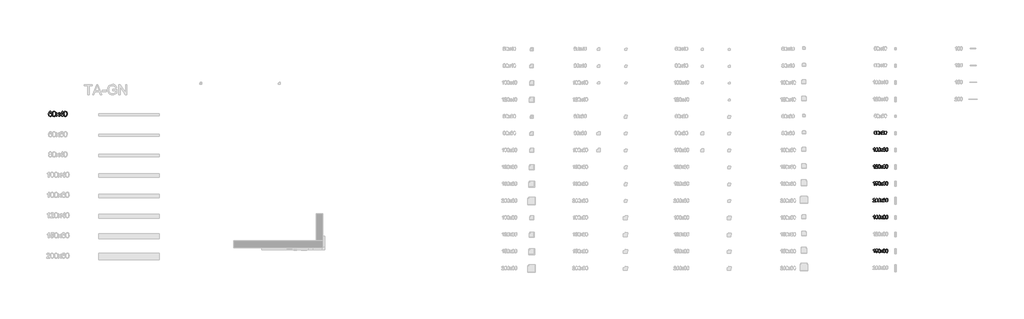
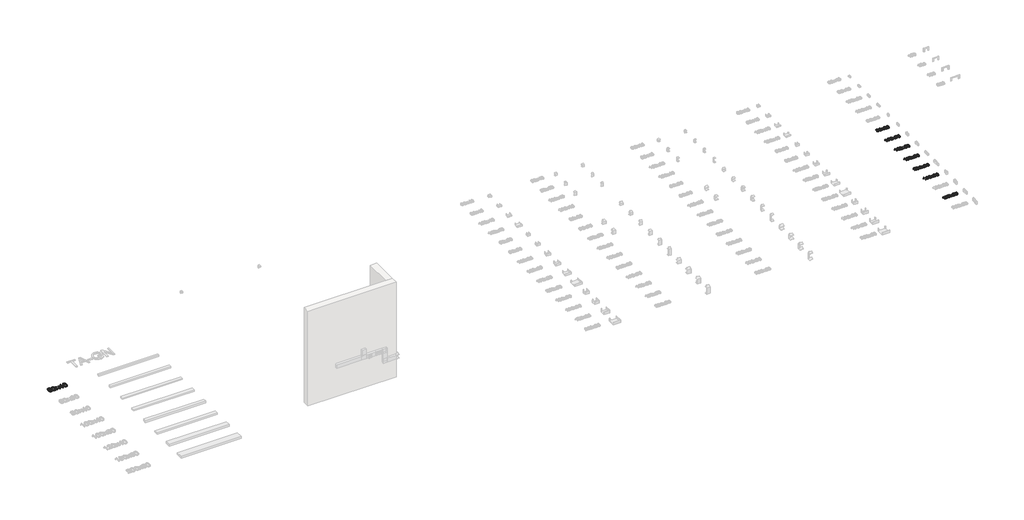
# One storey, part 18 of 28: 8 proxies.
"""IFC4 building model written with IfcOpenShell, lengths in millimetres."""

from ifc_helpers import new_model, si_unit, origin, origin_with_axes, place, context, project, spatial, polyline, outline, extrude, element, save

model = new_model("IFC4")

# Units and contexts
model_context = context("Model", 3, world=origin())
ifc_project = project(units=[si_unit("LENGTHUNIT", "METRE", prefix="MILLI")], contexts=[model_context])

# Site, building, storey
site = spatial("IfcSite", under=ifc_project)
building = spatial("IfcBuilding", under=site)
storey = spatial("IfcBuildingStorey", under=building, Name="Этаж 01", Elevation=0.0)

# Proxies
placement = place(None, origin())
element("IfcBuildingElementProxy", 1, Name="150 мм Arial", ObjectType="150 мм Arial", at=placement, inside=storey, context=model_context, shape_type="SweptSolid", body=[
    extrude(outline(polyline([(-418.304527, 190.0462691), (-437.1400852, 187.6918243), (-444.2769959, 203.4003855), (-452.8210552, 209.2773004), (-463.1493422, 211.236272), (-480.1454904, 206.6745353), (-493.0029661, 189.5496284), (-496.9071138, 175.5195288), (-498.3556492, 155.9803964), (-481.7457771, 171.0083759), (-461.1627794, 175.9196005), (-443.7619611, 172.5626773), (-429.1570459, 162.4919077), (-419.2518231, 147.1052432), (-415.9500822, 127.8006355), (-417.5043837, 114.3131619), (-422.167288, 101.8097726), (-429.552519, 91.2055741), (-439.2738007, 83.4156728), (-450.8896747, 78.6286084), (-463.9586826, 77.0329202), (-485.328028, 81.2635631), (-502.3471688, 93.955492), (-513.4801977, 116.3595055), (-517.1912073, 149.7264024), (-513.070929, 187.2411689), (-500.7100939, 212.891741), (-483.8335074, 225.7768079), (-461.9721198, 230.0718302), (-445.4450212, 227.4138828), (-432.2104664, 219.4400405), (-422.9398401, 206.7757028), (-418.304527, 190.0462691)]), holes=[polyline([(-498.3556492, 128.0949411), (-493.9962475, 111.7793746), (-482.4079647, 99.9335744), (-465.4302106, 95.8684784), (-453.0003977, 97.9746028), (-443.2285322, 104.292976), (-436.8963633, 114.2257899), (-434.7856404, 127.1752361), (-436.8687722, 139.6050491), (-443.1181676, 149.082609), (-453.05558, 155.083684), (-466.2027628, 157.0840423), (-478.6141816, 155.083684), (-488.9930524, 149.082609), (-496.015, 139.8349753), (-498.3556492, 128.0949411)])]), origin_with_axes(), (0.0, 0.0, 1.0), 20.0),
    extrude(outline(polyline([(-399.4689688, 153.515587), (-398.0848128, 177.6348503), (-393.9323448, 196.8704801), (-387.0529515, 211.5167821), (-377.4880196, 221.8680617), (-365.1685713, 228.0208881), (-350.0256287, 230.0718302), (-328.0262854, 225.2157879), (-312.832759, 211.2178779), (-304.0035911, 188.924229), (-300.5822885, 153.515587), (-301.952649, 129.5342794), (-306.0637303, 110.3446349), (-312.9017369, 95.6845374), (-322.4528732, 85.291871), (-334.7999126, 79.0976579), (-350.0256287, 77.0329202), (-369.5969508, 80.6197697), (-384.4593834, 91.380318), (-395.7165725, 116.8653432), (-399.4689688, 153.515587)]), holes=[polyline([(-380.6334107, 153.5523752), (-378.4261187, 123.924079), (-371.8042428, 106.7761795), (-361.9450053, 98.5954036), (-350.0256287, 95.8684784), (-338.1062521, 98.6046007), (-328.2470146, 106.8129677), (-321.6251387, 123.9700643), (-319.4178467, 153.5523752), (-321.5515623, 182.5138853), (-327.952709, 199.795142), (-337.7935524, 208.3759895), (-350.2463579, 211.236272), (-362.0369758, 208.7162804), (-371.5099372, 201.1563054), (-378.3525423, 182.7989938), (-380.6334107, 153.5523752)])]), origin_with_axes(), (0.0, 0.0, 1.0), 20.0),
    extrude(outline(polyline([(-291.1645095, 79.387365), (-250.9182192, 135.0111226), (-288.8100647, 190.0462691), (-266.1485338, 190.0462691), (-247.8647986, 163.5587655), (-239.3299363, 151.0507776), (-231.9355082, 161.2778971), (-211.1133873, 190.0462691), (-188.4518564, 190.0462691), (-228.2566883, 135.0111226), (-189.9233844, 79.387365), (-212.5849153, 79.387365), (-235.6511164, 112.8278383), (-239.8817593, 118.9346794), (-268.5029786, 79.387365), (-291.1645095, 79.387365)])), origin_with_axes(), (0.0, 0.0, 1.0), 20.0),
    extrude(outline(polyline([(-116.9355966, 79.387365), (-116.9355966, 114.7040365), (-185.2144949, 114.7040365), (-185.2144949, 133.5395947), (-112.226707, 227.7173854), (-98.1000384, 227.7173854), (-98.1000384, 133.5395947), (-79.2644802, 133.5395947), (-79.2644802, 114.7040365), (-98.1000384, 114.7040365), (-98.1000384, 79.387365), (-116.9355966, 79.387365)]), holes=[polyline([(-116.9355966, 133.5395947), (-116.9355966, 191.7385263), (-162.0379292, 133.5395947), (-116.9355966, 133.5395947)])]), origin_with_axes(), (0.0, 0.0, 1.0), 20.0),
    extrude(outline(polyline([(-62.7833669, 153.515587), (-61.3992109, 177.6348503), (-57.2467428, 196.8704801), (-50.3673495, 211.5167821), (-40.8024177, 221.8680617), (-28.4829693, 228.0208881), (-13.3400267, 230.0718302), (8.6593166, 225.2157879), (23.852843, 211.2178779), (32.6820109, 188.924229), (36.1033134, 153.515587), (34.732953, 129.5342794), (30.6218717, 110.3446349), (23.7838651, 95.6845374), (14.2327288, 85.291871), (1.8856894, 79.0976579), (-13.3400267, 77.0329202), (-32.9113489, 80.6197697), (-47.7737815, 91.380318), (-59.0309705, 116.8653432), (-62.7833669, 153.515587)]), holes=[polyline([(-43.9478087, 153.5523752), (-41.7405167, 123.924079), (-35.1186408, 106.7761795), (-25.2594034, 98.5954036), (-13.3400267, 95.8684784), (-1.4206501, 98.6046007), (8.4385874, 106.8129677), (15.0604633, 123.9700643), (17.2677553, 153.5523752), (15.1340397, 182.5138853), (8.732893, 199.795142), (-1.1079504, 208.3759895), (-13.5607559, 211.236272), (-25.3513739, 208.7162804), (-34.8243352, 201.1563054), (-41.6669403, 182.7989938), (-43.9478087, 153.5523752)])]), origin_with_axes(), (0.0, 0.0, 1.0), 20.0),
])
element("IfcBuildingElementProxy", 2, Name="100 мм Arial", ObjectType="100 мм Arial", at=placement, inside=storey, context=model_context, shape_type="SweptSolid", body=[
    extrude(outline(polyline([(23974.707867, -398.0058037), (23963.266737, -390.2067054), (23959.5511288, -378.0665996), (23961.5744798, -368.2502817), (23967.6445327, -360.1384837), (23977.0807059, -354.6938302), (23989.2024176, -352.8789457), (24001.3977058, -354.7367497), (24010.9565063, -360.310162), (24017.1369238, -368.5507186), (24019.197063, -378.4099561), (24015.5305057, -390.2434936), (24004.4082068, -398.0058037), (24017.7623232, -407.8527785), (24022.3363227, -424.1008999), (24020.067717, -436.1061157), (24013.2619001, -446.0266668), (24002.7527378, -452.6853309), (23989.3740959, -454.9048856), (23975.995454, -452.6761339), (23965.4862917, -445.9898786), (23958.6804748, -435.9742913), (23956.4118691, -423.7575434), (23961.1698096, -407.1292772), (23974.707867, -398.0058037)]), holes=[polyline([(23972.1081676, -378.4344816), (23976.5595397, -388.2937191), (23989.5212487, -392.1196918), (24002.2254403, -388.3182445), (24006.6400242, -378.9985673), (24002.0782875, -369.3477963), (23989.3740959, -365.4359844), (23976.6331161, -369.2619572), (23972.1081676, -378.4344816)]), polyline([(23968.9689079, -423.316085), (23971.0658353, -432.7706523), (23978.4847888, -439.8462493), (23989.4721978, -442.3478469), (23998.0193228, -441.0326687), (24004.4327322, -437.0871343), (24009.7792839, -423.7084925), (24004.261054, -410.0723332), (23997.7004917, -406.0256312), (23989.0552648, -404.6767306), (23980.6277015, -406.0072371), (23974.2786714, -409.9987568), (23968.9689079, -423.316085)])]), origin_with_axes(), (0.0, 0.0, 1.0), 20.0),
    extrude(outline(polyline([(24033.3237316, -403.9164411), (24037.0148143, -375.013179), (24047.9776977, -358.3481246), (24066.2859583, -352.8789457), (24080.9521872, -356.1163072), (24091.0812048, -365.4482472), (24096.9673167, -380.3106798), (24099.2481851, -403.9164411), (24095.5938906, -432.6970759), (24084.6677954, -449.3989185), (24076.4364357, -453.5283938), (24066.2859583, -454.9048856), (24053.2384103, -452.5136527), (24043.3301218, -445.3399538), (24035.8253291, -428.349937), (24033.3237316, -403.9164411)]), holes=[polyline([(24045.8807703, -403.8919156), (24047.3522983, -423.6441131), (24051.7668823, -435.0760461), (24058.3397073, -440.5298967), (24066.2859583, -442.3478469), (24074.2322094, -440.5237653), (24080.8050344, -435.0515206), (24085.2196184, -423.6134563), (24086.6911463, -403.8919156), (24085.2686693, -384.5842423), (24081.0012382, -373.0634045), (24074.4406759, -367.3428394), (24066.1388055, -365.4359844), (24058.2783936, -367.1159789), (24051.963086, -372.1559622), (24047.4013493, -384.3941699), (24045.8807703, -403.8919156)])]), origin_with_axes(), (0.0, 0.0, 1.0), 20.0),
    extrude(outline(polyline([(24105.5267045, -453.3352558), (24132.3575647, -416.2527507), (24107.0963343, -379.562653), (24122.2040216, -379.562653), (24134.3931784, -397.2209888), (24140.0830866, -405.5596474), (24145.0127053, -398.7415677), (24158.8941193, -379.562653), (24174.0018065, -379.562653), (24147.465252, -416.2527507), (24173.0207879, -453.3352558), (24157.9131006, -453.3352558), (24142.5356332, -431.0416069), (24139.7152046, -426.9703795), (24120.6343918, -453.3352558), (24105.5267045, -453.3352558)])), origin_with_axes(), (0.0, 0.0, 1.0), 20.0),
    extrude(outline(polyline([(24245.2237608, -379.562653), (24232.666722, -381.1322829), (24227.9087816, -370.6599088), (24215.3272173, -365.4359844), (24203.9964519, -368.4771422), (24195.4248014, -379.8937468), (24191.856346, -402.2732349), (24202.9295941, -392.2545819), (24216.6515925, -388.9804321), (24228.2521381, -391.2183809), (24237.9887482, -397.9322273), (24244.59223, -408.1900036), (24246.7933906, -421.0597421), (24242.6485868, -438.3869841), (24231.244245, -450.6497172), (24214.7876571, -454.9048856), (24200.5414268, -452.084457), (24189.1953329, -443.6231711), (24181.7733137, -428.6871621), (24179.2993073, -406.4425641), (24182.0461595, -381.4327198), (24190.2867162, -364.3323384), (24201.5377739, -355.7422938), (24216.1120323, -352.8789457), (24227.130098, -354.6509106), (24235.9531345, -359.9668054), (24242.133552, -368.4096972), (24245.2237608, -379.562653)]), holes=[polyline([(24191.856346, -420.8635384), (24194.7626138, -431.7405827), (24202.4881357, -439.6377828), (24213.8066384, -442.3478469), (24222.0931804, -440.9437639), (24228.6077574, -436.7315151), (24232.8292032, -430.1096392), (24234.2363519, -421.476675), (24232.8475973, -413.1901331), (24228.6813338, -406.8717598), (24222.0563922, -402.8710431), (24213.2916036, -401.5374709), (24198.0980772, -406.8717598), (24193.4167788, -413.0368489), (24191.856346, -420.8635384)])]), origin_with_axes(), (0.0, 0.0, 1.0), 20.0),
    extrude(outline(polyline([(24257.7807996, -403.9164411), (24261.4718823, -375.013179), (24272.4347657, -358.3481246), (24290.7430263, -352.8789457), (24305.4092552, -356.1163072), (24315.5382728, -365.4482472), (24321.4243847, -380.3106798), (24323.7052531, -403.9164411), (24320.0509586, -432.6970759), (24309.1248634, -449.3989185), (24300.8935037, -453.5283938), (24290.7430263, -454.9048856), (24277.6954782, -452.5136527), (24267.7871898, -445.3399538), (24260.2823971, -428.349937), (24257.7807996, -403.9164411)]), holes=[polyline([(24270.3378383, -403.8919156), (24271.8093663, -423.6441131), (24276.2239503, -435.0760461), (24282.7967752, -440.5298967), (24290.7430263, -442.3478469), (24298.6892774, -440.5237653), (24305.2621024, -435.0515206), (24309.6766864, -423.6134563), (24311.1482143, -403.8919156), (24309.7257373, -384.5842423), (24305.4583061, -373.0634045), (24298.8977439, -367.3428394), (24290.5958735, -365.4359844), (24282.7354616, -367.1159789), (24276.420154, -372.1559622), (24271.8584173, -384.3941699), (24270.3378383, -403.8919156)])]), origin_with_axes(), (0.0, 0.0, 1.0), 20.0),
])
element("IfcBuildingElementProxy", 3, Name="100 мм Arial", ObjectType="100 мм Arial", at=placement, inside=storey, context=model_context, shape_type="SweptSolid", body=[
    extrude(outline(polyline([(23965.0448333, -1453.3352558), (23952.4877945, -1453.3352558), (23952.4877945, -1375.0499672), (23940.5929433, -1383.5235158), (23927.373717, -1389.8633489), (23927.373717, -1377.9930232), (23945.7800795, -1366.2453248), (23956.9514294, -1352.8789457), (23965.0448333, -1352.8789457), (23965.0448333, -1453.3352558)])), origin_with_axes(), (0.0, 0.0, 1.0), 20.0),
    extrude(outline(polyline([(24059.222624, -1440.778217), (24059.222624, -1453.3352558), (23993.2981705, -1453.3352558), (23994.6470712, -1444.6777662), (24002.2744912, -1431.3481752), (24017.9953151, -1416.7923109), (24039.6758274, -1395.8720882), (24045.0959554, -1381.6473177), (24039.9823957, -1370.1326112), (24026.6282793, -1365.4359844), (24012.7100771, -1370.0222466), (24007.4248391, -1382.7019127), (23994.8678004, -1381.1322829), (23997.9120239, -1368.9860457), (24004.4940459, -1360.1139582), (24014.2705099, -1354.6876988), (24026.8980594, -1352.8789457), (24039.6175794, -1354.8900339), (24049.3756493, -1360.9232986), (24055.583658, -1369.9364075), (24057.6529942, -1380.8870282), (24055.4211768, -1392.7941421), (24048.0022232, -1405.1059262), (24030.0127936, -1422.3105409), (24015.5672939, -1434.389333), (24009.9019112, -1440.778217), (24059.222624, -1440.778217)])), origin_with_axes(), (0.0, 0.0, 1.0), 20.0),
    extrude(outline(polyline([(24071.7796628, -1403.9164411), (24075.4707455, -1375.013179), (24086.433629, -1358.3481246), (24104.7418896, -1352.8789457), (24119.4081185, -1356.1163072), (24129.5371361, -1365.4482472), (24135.423248, -1380.3106798), (24137.7041163, -1403.9164411), (24134.0498219, -1432.6970759), (24123.1237266, -1449.3989185), (24114.892367, -1453.5283938), (24104.7418896, -1454.9048856), (24091.6943415, -1452.5136527), (24081.7860531, -1445.3399538), (24074.2812604, -1428.349937), (24071.7796628, -1403.9164411)]), holes=[polyline([(24084.3367016, -1403.8919156), (24085.8082296, -1423.6441131), (24090.2228135, -1435.0760461), (24096.7956385, -1440.5298967), (24104.7418896, -1442.3478469), (24112.6881407, -1440.5237653), (24119.2609657, -1435.0515206), (24123.6755496, -1423.6134563), (24125.1470776, -1403.8919156), (24123.7246005, -1384.5842423), (24119.4571694, -1373.0634045), (24112.8966071, -1367.3428394), (24104.5947368, -1365.4359844), (24096.7343248, -1367.1159789), (24090.4190172, -1372.1559622), (24085.8572805, -1384.3941699), (24084.3367016, -1403.8919156)])]), origin_with_axes(), (0.0, 0.0, 1.0), 20.0),
    extrude(outline(polyline([(24143.9826357, -1453.3352558), (24170.8134959, -1416.2527507), (24145.5522656, -1379.562653), (24160.6599528, -1379.562653), (24172.8491096, -1397.2209888), (24178.5390178, -1405.5596474), (24183.4686365, -1398.7415677), (24197.3500505, -1379.562653), (24212.4577378, -1379.562653), (24185.9211832, -1416.2527507), (24211.4767191, -1453.3352558), (24196.3690318, -1453.3352558), (24180.9915644, -1431.0416069), (24178.1711358, -1426.9703795), (24159.090323, -1453.3352558), (24143.9826357, -1453.3352558)])), origin_with_axes(), (0.0, 0.0, 1.0), 20.0),
    extrude(outline(polyline([(24283.679692, -1379.562653), (24271.1226533, -1381.1322829), (24266.3647128, -1370.6599088), (24253.7831486, -1365.4359844), (24242.4523831, -1368.4771422), (24233.8807326, -1379.8937468), (24230.3122773, -1402.2732349), (24241.3855253, -1392.2545819), (24255.1075237, -1388.9804321), (24266.7080693, -1391.2183809), (24276.4446795, -1397.9322273), (24283.0481613, -1408.1900036), (24285.2493219, -1421.0597421), (24281.1045181, -1438.3869841), (24269.7001762, -1450.6497172), (24253.2435883, -1454.9048856), (24238.997358, -1452.084457), (24227.6512642, -1443.6231711), (24220.2292449, -1428.6871621), (24217.7552385, -1406.4425641), (24220.5020907, -1381.4327198), (24228.7426474, -1364.3323384), (24239.9937051, -1355.7422938), (24254.5679635, -1352.8789457), (24265.5860292, -1354.6509106), (24274.4090658, -1359.9668054), (24280.5894833, -1368.4096972), (24283.679692, -1379.562653)]), holes=[polyline([(24230.3122773, -1420.8635384), (24233.218545, -1431.7405827), (24240.9440669, -1439.6377828), (24252.2625696, -1442.3478469), (24260.5491116, -1440.9437639), (24267.0636886, -1436.7315151), (24271.2851345, -1430.1096392), (24272.6922831, -1421.476675), (24271.3035286, -1413.1901331), (24267.137265, -1406.8717598), (24260.5123234, -1402.8710431), (24251.7475348, -1401.5374709), (24236.5540084, -1406.8717598), (24231.8727101, -1413.0368489), (24230.3122773, -1420.8635384)])]), origin_with_axes(), (0.0, 0.0, 1.0), 20.0),
    extrude(outline(polyline([(24296.2367308, -1403.9164411), (24299.9278135, -1375.013179), (24310.8906969, -1358.3481246), (24329.1989576, -1352.8789457), (24343.8651864, -1356.1163072), (24353.994204, -1365.4482472), (24359.880316, -1380.3106798), (24362.1611843, -1403.9164411), (24358.5068898, -1432.6970759), (24347.5807946, -1449.3989185), (24339.349435, -1453.5283938), (24329.1989576, -1454.9048856), (24316.1514095, -1452.5136527), (24306.2431211, -1445.3399538), (24298.7383284, -1428.349937), (24296.2367308, -1403.9164411)]), holes=[polyline([(24308.7937696, -1403.8919156), (24310.2652975, -1423.6441131), (24314.6798815, -1435.0760461), (24321.2527065, -1440.5298967), (24329.1989576, -1442.3478469), (24337.1452087, -1440.5237653), (24343.7180336, -1435.0515206), (24348.1326176, -1423.6134563), (24349.6041456, -1403.8919156), (24348.1816685, -1384.5842423), (24343.9142374, -1373.0634045), (24337.3536751, -1367.3428394), (24329.0518048, -1365.4359844), (24321.1913928, -1367.1159789), (24314.8760852, -1372.1559622), (24310.3143485, -1384.3941699), (24308.7937696, -1403.8919156)])]), origin_with_axes(), (0.0, 0.0, 1.0), 20.0),
])
element("IfcBuildingElementProxy", 4, Name="100 мм Arial", ObjectType="100 мм Arial", at=placement, inside=storey, context=model_context, shape_type="SweptSolid", body=[
    extrude(outline(polyline([(23965.0448333, -1953.3352558), (23952.4877945, -1953.3352558), (23952.4877945, -1875.0499672), (23940.5929433, -1883.5235158), (23927.373717, -1889.8633489), (23927.373717, -1877.9930232), (23945.7800795, -1866.2453248), (23956.9514294, -1852.8789457), (23965.0448333, -1852.8789457), (23965.0448333, -1953.3352558)])), origin_with_axes(), (0.0, 0.0, 1.0), 20.0),
    extrude(outline(polyline([(23994.8678004, -1926.6515484), (24007.4248391, -1925.0819186), (24013.7524094, -1938.0191021), (24026.8735339, -1942.3478469), (24035.8743801, -1940.8425964), (24042.6188833, -1936.3268449), (24046.8311322, -1929.3217586), (24048.2352151, -1920.3485036), (24042.9745026, -1905.43702), (24036.3679551, -1901.3351358), (24027.0697377, -1899.967841), (24016.0455405, -1902.1506075), (24008.994469, -1907.8159903), (23996.4374302, -1906.2463604), (24007.4248391, -1854.4485755), (24056.0833643, -1854.4485755), (24056.0833643, -1867.0056143), (24017.5783822, -1867.0056143), (24012.2073051, -1894.6703403), (24021.1774944, -1889.2256868), (24030.5768793, -1887.4108023), (24042.3092493, -1889.6610138), (24052.0489251, -1896.4116484), (24058.6064217, -1906.7000815), (24060.7922539, -1919.5636886), (24058.8240852, -1932.1207274), (24052.9195792, -1942.8628817), (24041.6133392, -1951.8943847), (24026.824483, -1954.9048856), (24014.4912391, -1952.9704395), (24004.6657242, -1947.167101), (23997.930418, -1938.1693206), (23994.8678004, -1926.6515484)])), origin_with_axes(), (0.0, 0.0, 1.0), 20.0),
    extrude(outline(polyline([(24071.7796628, -1903.9164411), (24075.4707455, -1875.013179), (24086.433629, -1858.3481246), (24104.7418896, -1852.8789457), (24119.4081185, -1856.1163072), (24129.5371361, -1865.4482472), (24135.423248, -1880.3106798), (24137.7041163, -1903.9164411), (24134.0498219, -1932.6970759), (24123.1237266, -1949.3989185), (24114.892367, -1953.5283938), (24104.7418896, -1954.9048856), (24091.6943415, -1952.5136527), (24081.7860531, -1945.3399538), (24074.2812604, -1928.349937), (24071.7796628, -1903.9164411)]), holes=[polyline([(24084.3367016, -1903.8919156), (24085.8082296, -1923.6441131), (24090.2228135, -1935.0760461), (24096.7956385, -1940.5298967), (24104.7418896, -1942.3478469), (24112.6881407, -1940.5237653), (24119.2609657, -1935.0515206), (24123.6755496, -1923.6134563), (24125.1470776, -1903.8919156), (24123.7246005, -1884.5842423), (24119.4571694, -1873.0634045), (24112.8966071, -1867.3428394), (24104.5947368, -1865.4359844), (24096.7343248, -1867.1159789), (24090.4190172, -1872.1559622), (24085.8572805, -1884.3941699), (24084.3367016, -1903.8919156)])]), origin_with_axes(), (0.0, 0.0, 1.0), 20.0),
    extrude(outline(polyline([(24143.9826357, -1953.3352558), (24170.8134959, -1916.2527507), (24145.5522656, -1879.562653), (24160.6599528, -1879.562653), (24172.8491096, -1897.2209888), (24178.5390178, -1905.5596474), (24183.4686365, -1898.7415677), (24197.3500505, -1879.562653), (24212.4577378, -1879.562653), (24185.9211832, -1916.2527507), (24211.4767191, -1953.3352558), (24196.3690318, -1953.3352558), (24180.9915644, -1931.0416069), (24178.1711358, -1926.9703795), (24159.090323, -1953.3352558), (24143.9826357, -1953.3352558)])), origin_with_axes(), (0.0, 0.0, 1.0), 20.0),
    extrude(outline(polyline([(24283.679692, -1879.562653), (24271.1226533, -1881.1322829), (24266.3647128, -1870.6599088), (24253.7831486, -1865.4359844), (24242.4523831, -1868.4771422), (24233.8807326, -1879.8937468), (24230.3122773, -1902.2732349), (24241.3855253, -1892.2545819), (24255.1075237, -1888.9804321), (24266.7080693, -1891.2183809), (24276.4446795, -1897.9322273), (24283.0481613, -1908.1900036), (24285.2493219, -1921.0597421), (24281.1045181, -1938.3869841), (24269.7001762, -1950.6497172), (24253.2435883, -1954.9048856), (24238.997358, -1952.084457), (24227.6512642, -1943.6231711), (24220.2292449, -1928.6871621), (24217.7552385, -1906.4425641), (24220.5020907, -1881.4327198), (24228.7426474, -1864.3323384), (24239.9937051, -1855.7422938), (24254.5679635, -1852.8789457), (24265.5860292, -1854.6509106), (24274.4090658, -1859.9668054), (24280.5894833, -1868.4096972), (24283.679692, -1879.562653)]), holes=[polyline([(24230.3122773, -1920.8635384), (24233.218545, -1931.7405827), (24240.9440669, -1939.6377828), (24252.2625696, -1942.3478469), (24260.5491116, -1940.9437639), (24267.0636886, -1936.7315151), (24271.2851345, -1930.1096392), (24272.6922831, -1921.476675), (24271.3035286, -1913.1901331), (24267.137265, -1906.8717598), (24260.5123234, -1902.8710431), (24251.7475348, -1901.5374709), (24236.5540084, -1906.8717598), (24231.8727101, -1913.0368489), (24230.3122773, -1920.8635384)])]), origin_with_axes(), (0.0, 0.0, 1.0), 20.0),
    extrude(outline(polyline([(24296.2367308, -1903.9164411), (24299.9278135, -1875.013179), (24310.8906969, -1858.3481246), (24329.1989576, -1852.8789457), (24343.8651864, -1856.1163072), (24353.994204, -1865.4482472), (24359.880316, -1880.3106798), (24362.1611843, -1903.9164411), (24358.5068898, -1932.6970759), (24347.5807946, -1949.3989185), (24339.349435, -1953.5283938), (24329.1989576, -1954.9048856), (24316.1514095, -1952.5136527), (24306.2431211, -1945.3399538), (24298.7383284, -1928.349937), (24296.2367308, -1903.9164411)]), holes=[polyline([(24308.7937696, -1903.8919156), (24310.2652975, -1923.6441131), (24314.6798815, -1935.0760461), (24321.2527065, -1940.5298967), (24329.1989576, -1942.3478469), (24337.1452087, -1940.5237653), (24343.7180336, -1935.0515206), (24348.1326176, -1923.6134563), (24349.6041456, -1903.8919156), (24348.1816685, -1884.5842423), (24343.9142374, -1873.0634045), (24337.3536751, -1867.3428394), (24329.0518048, -1865.4359844), (24321.1913928, -1867.1159789), (24314.8760852, -1872.1559622), (24310.3143485, -1884.3941699), (24308.7937696, -1903.8919156)])]), origin_with_axes(), (0.0, 0.0, 1.0), 20.0),
])
element("IfcBuildingElementProxy", 5, Name="100 мм Arial", ObjectType="100 мм Arial", at=placement, inside=storey, context=model_context, shape_type="SweptSolid", body=[
    extrude(outline(polyline([(23982.3107616, -2440.778217), (23982.3107616, -2453.3352558), (23916.386308, -2453.3352558), (23917.7352087, -2444.6777662), (23925.3626287, -2431.3481752), (23941.0834527, -2416.7923109), (23962.7639649, -2395.8720882), (23968.184093, -2381.6473177), (23963.0705332, -2370.1326112), (23949.7164168, -2365.4359844), (23935.7982147, -2370.0222466), (23930.5129767, -2382.7019127), (23917.9559379, -2381.1322829), (23921.0001614, -2368.9860457), (23927.5821834, -2360.1139582), (23937.3586475, -2354.6876988), (23949.9861969, -2352.8789457), (23962.7057169, -2354.8900339), (23972.4637868, -2360.9232986), (23978.6717955, -2369.9364075), (23980.7411317, -2380.8870282), (23978.5093143, -2392.7941421), (23971.0903607, -2405.1059262), (23953.1009312, -2422.3105409), (23938.6554315, -2434.389333), (23932.9900488, -2440.778217), (23982.3107616, -2440.778217)])), origin_with_axes(), (0.0, 0.0, 1.0), 20.0),
    extrude(outline(polyline([(23994.8678004, -2403.9164411), (23998.558883, -2375.013179), (24009.5217665, -2358.3481246), (24027.8300271, -2352.8789457), (24042.496256, -2356.1163072), (24052.6252736, -2365.4482472), (24058.5113855, -2380.3106798), (24060.7922539, -2403.9164411), (24057.1379594, -2432.6970759), (24046.2118641, -2449.3989185), (24037.9805045, -2453.5283938), (24027.8300271, -2454.9048856), (24014.782479, -2452.5136527), (24004.8741906, -2445.3399538), (23997.3693979, -2428.349937), (23994.8678004, -2403.9164411)]), holes=[polyline([(24007.4248391, -2403.8919156), (24008.8963671, -2423.6441131), (24013.310951, -2435.0760461), (24019.883776, -2440.5298967), (24027.8300271, -2442.3478469), (24035.7762782, -2440.5237653), (24042.3491032, -2435.0515206), (24046.7636871, -2423.6134563), (24048.2352151, -2403.8919156), (24046.8127381, -2384.5842423), (24042.5453069, -2373.0634045), (24035.9847447, -2367.3428394), (24027.6828743, -2365.4359844), (24019.8224624, -2367.1159789), (24013.5071548, -2372.1559622), (24008.945418, -2384.3941699), (24007.4248391, -2403.8919156)])]), origin_with_axes(), (0.0, 0.0, 1.0), 20.0),
    extrude(outline(polyline([(24071.7796628, -2403.9164411), (24075.4707455, -2375.013179), (24086.433629, -2358.3481246), (24104.7418896, -2352.8789457), (24119.4081185, -2356.1163072), (24129.5371361, -2365.4482472), (24135.423248, -2380.3106798), (24137.7041163, -2403.9164411), (24134.0498219, -2432.6970759), (24123.1237266, -2449.3989185), (24114.892367, -2453.5283938), (24104.7418896, -2454.9048856), (24091.6943415, -2452.5136527), (24081.7860531, -2445.3399538), (24074.2812604, -2428.349937), (24071.7796628, -2403.9164411)]), holes=[polyline([(24084.3367016, -2403.8919156), (24085.8082296, -2423.6441131), (24090.2228135, -2435.0760461), (24096.7956385, -2440.5298967), (24104.7418896, -2442.3478469), (24112.6881407, -2440.5237653), (24119.2609657, -2435.0515206), (24123.6755496, -2423.6134563), (24125.1470776, -2403.8919156), (24123.7246005, -2384.5842423), (24119.4571694, -2373.0634045), (24112.8966071, -2367.3428394), (24104.5947368, -2365.4359844), (24096.7343248, -2367.1159789), (24090.4190172, -2372.1559622), (24085.8572805, -2384.3941699), (24084.3367016, -2403.8919156)])]), origin_with_axes(), (0.0, 0.0, 1.0), 20.0),
    extrude(outline(polyline([(24143.9826357, -2453.3352558), (24170.8134959, -2416.2527507), (24145.5522656, -2379.562653), (24160.6599528, -2379.562653), (24172.8491096, -2397.2209888), (24178.5390178, -2405.5596474), (24183.4686365, -2398.7415677), (24197.3500505, -2379.562653), (24212.4577378, -2379.562653), (24185.9211832, -2416.2527507), (24211.4767191, -2453.3352558), (24196.3690318, -2453.3352558), (24180.9915644, -2431.0416069), (24178.1711358, -2426.9703795), (24159.090323, -2453.3352558), (24143.9826357, -2453.3352558)])), origin_with_axes(), (0.0, 0.0, 1.0), 20.0),
    extrude(outline(polyline([(24283.679692, -2379.562653), (24271.1226533, -2381.1322829), (24266.3647128, -2370.6599088), (24253.7831486, -2365.4359844), (24242.4523831, -2368.4771422), (24233.8807326, -2379.8937468), (24230.3122773, -2402.2732349), (24241.3855253, -2392.2545819), (24255.1075237, -2388.9804321), (24266.7080693, -2391.2183809), (24276.4446795, -2397.9322273), (24283.0481613, -2408.1900036), (24285.2493219, -2421.0597421), (24281.1045181, -2438.3869841), (24269.7001762, -2450.6497172), (24253.2435883, -2454.9048856), (24238.997358, -2452.084457), (24227.6512642, -2443.6231711), (24220.2292449, -2428.6871621), (24217.7552385, -2406.4425641), (24220.5020907, -2381.4327198), (24228.7426474, -2364.3323384), (24239.9937051, -2355.7422938), (24254.5679635, -2352.8789457), (24265.5860292, -2354.6509106), (24274.4090658, -2359.9668054), (24280.5894833, -2368.4096972), (24283.679692, -2379.562653)]), holes=[polyline([(24230.3122773, -2420.8635384), (24233.218545, -2431.7405827), (24240.9440669, -2439.6377828), (24252.2625696, -2442.3478469), (24260.5491116, -2440.9437639), (24267.0636886, -2436.7315151), (24271.2851345, -2430.1096392), (24272.6922831, -2421.476675), (24271.3035286, -2413.1901331), (24267.137265, -2406.8717598), (24260.5123234, -2402.8710431), (24251.7475348, -2401.5374709), (24236.5540084, -2406.8717598), (24231.8727101, -2413.0368489), (24230.3122773, -2420.8635384)])]), origin_with_axes(), (0.0, 0.0, 1.0), 20.0),
    extrude(outline(polyline([(24296.2367308, -2403.9164411), (24299.9278135, -2375.013179), (24310.8906969, -2358.3481246), (24329.1989576, -2352.8789457), (24343.8651864, -2356.1163072), (24353.994204, -2365.4482472), (24359.880316, -2380.3106798), (24362.1611843, -2403.9164411), (24358.5068898, -2432.6970759), (24347.5807946, -2449.3989185), (24339.349435, -2453.5283938), (24329.1989576, -2454.9048856), (24316.1514095, -2452.5136527), (24306.2431211, -2445.3399538), (24298.7383284, -2428.349937), (24296.2367308, -2403.9164411)]), holes=[polyline([(24308.7937696, -2403.8919156), (24310.2652975, -2423.6441131), (24314.6798815, -2435.0760461), (24321.2527065, -2440.5298967), (24329.1989576, -2442.3478469), (24337.1452087, -2440.5237653), (24343.7180336, -2435.0515206), (24348.1326176, -2423.6134563), (24349.6041456, -2403.8919156), (24348.1816685, -2384.5842423), (24343.9142374, -2373.0634045), (24337.3536751, -2367.3428394), (24329.0518048, -2365.4359844), (24321.1913928, -2367.1159789), (24314.8760852, -2372.1559622), (24310.3143485, -2384.3941699), (24308.7937696, -2403.8919156)])]), origin_with_axes(), (0.0, 0.0, 1.0), 20.0),
])
element("IfcBuildingElementProxy", 6, Name="100 мм Arial", ObjectType="100 мм Arial", at=placement, inside=storey, context=model_context, shape_type="SweptSolid", body=[
    extrude(outline(polyline([(23965.0448333, -2953.3352558), (23952.4877945, -2953.3352558), (23952.4877945, -2875.0499672), (23940.5929433, -2883.5235158), (23927.373717, -2889.8633489), (23927.373717, -2877.9930232), (23945.7800795, -2866.2453248), (23956.9514294, -2852.8789457), (23965.0448333, -2852.8789457), (23965.0448333, -2953.3352558)])), origin_with_axes(), (0.0, 0.0, 1.0), 20.0),
    extrude(outline(polyline([(23994.8678004, -2903.9164411), (23998.558883, -2875.013179), (24009.5217665, -2858.3481246), (24027.8300271, -2852.8789457), (24042.496256, -2856.1163072), (24052.6252736, -2865.4482472), (24058.5113855, -2880.3106798), (24060.7922539, -2903.9164411), (24057.1379594, -2932.6970759), (24046.2118641, -2949.3989185), (24037.9805045, -2953.5283938), (24027.8300271, -2954.9048856), (24014.782479, -2952.5136527), (24004.8741906, -2945.3399538), (23997.3693979, -2928.349937), (23994.8678004, -2903.9164411)]), holes=[polyline([(24007.4248391, -2903.8919156), (24008.8963671, -2923.6441131), (24013.310951, -2935.0760461), (24019.883776, -2940.5298967), (24027.8300271, -2942.3478469), (24035.7762782, -2940.5237653), (24042.3491032, -2935.0515206), (24046.7636871, -2923.6134563), (24048.2352151, -2903.8919156), (24046.8127381, -2884.5842423), (24042.5453069, -2873.0634045), (24035.9847447, -2867.3428394), (24027.6828743, -2865.4359844), (24019.8224624, -2867.1159789), (24013.5071548, -2872.1559622), (24008.945418, -2884.3941699), (24007.4248391, -2903.8919156)])]), origin_with_axes(), (0.0, 0.0, 1.0), 20.0),
    extrude(outline(polyline([(24071.7796628, -2903.9164411), (24075.4707455, -2875.013179), (24086.433629, -2858.3481246), (24104.7418896, -2852.8789457), (24119.4081185, -2856.1163072), (24129.5371361, -2865.4482472), (24135.423248, -2880.3106798), (24137.7041163, -2903.9164411), (24134.0498219, -2932.6970759), (24123.1237266, -2949.3989185), (24114.892367, -2953.5283938), (24104.7418896, -2954.9048856), (24091.6943415, -2952.5136527), (24081.7860531, -2945.3399538), (24074.2812604, -2928.349937), (24071.7796628, -2903.9164411)]), holes=[polyline([(24084.3367016, -2903.8919156), (24085.8082296, -2923.6441131), (24090.2228135, -2935.0760461), (24096.7956385, -2940.5298967), (24104.7418896, -2942.3478469), (24112.6881407, -2940.5237653), (24119.2609657, -2935.0515206), (24123.6755496, -2923.6134563), (24125.1470776, -2903.8919156), (24123.7246005, -2884.5842423), (24119.4571694, -2873.0634045), (24112.8966071, -2867.3428394), (24104.5947368, -2865.4359844), (24096.7343248, -2867.1159789), (24090.4190172, -2872.1559622), (24085.8572805, -2884.3941699), (24084.3367016, -2903.8919156)])]), origin_with_axes(), (0.0, 0.0, 1.0), 20.0),
    extrude(outline(polyline([(24143.9826357, -2953.3352558), (24170.8134959, -2916.2527507), (24145.5522656, -2879.562653), (24160.6599528, -2879.562653), (24172.8491096, -2897.2209888), (24178.5390178, -2905.5596474), (24183.4686365, -2898.7415677), (24197.3500505, -2879.562653), (24212.4577378, -2879.562653), (24185.9211832, -2916.2527507), (24211.4767191, -2953.3352558), (24196.3690318, -2953.3352558), (24180.9915644, -2931.0416069), (24178.1711358, -2926.9703795), (24159.090323, -2953.3352558), (24143.9826357, -2953.3352558)])), origin_with_axes(), (0.0, 0.0, 1.0), 20.0),
    extrude(outline(polyline([(24237.6208662, -2898.0058037), (24226.1797362, -2890.2067054), (24222.464128, -2878.0665996), (24224.487479, -2868.2502817), (24230.5575319, -2860.1384837), (24239.9937051, -2854.6938302), (24252.1154168, -2852.8789457), (24264.310705, -2854.7367497), (24273.8695055, -2860.310162), (24280.049923, -2868.5507186), (24282.1100622, -2878.4099561), (24278.443505, -2890.2434936), (24267.321206, -2898.0058037), (24280.6753224, -2907.8527785), (24285.2493219, -2924.1008999), (24282.9807162, -2936.1061157), (24276.1748993, -2946.0266668), (24265.665737, -2952.6853309), (24252.2870951, -2954.9048856), (24238.9084532, -2952.6761339), (24228.3992909, -2945.9898786), (24221.593474, -2935.9742913), (24219.3248683, -2923.7575434), (24224.0828088, -2907.1292772), (24237.6208662, -2898.0058037)]), holes=[polyline([(24231.8819071, -2923.316085), (24233.9788345, -2932.7706523), (24241.3977881, -2939.8462493), (24252.385197, -2942.3478469), (24260.932322, -2941.0326687), (24267.3457314, -2937.0871343), (24272.6922831, -2923.7084925), (24267.1740532, -2910.0723332), (24260.6134909, -2906.0256312), (24251.968264, -2904.6767306), (24243.5407007, -2906.0072371), (24237.1916706, -2909.9987568), (24231.8819071, -2923.316085)]), polyline([(24235.0211668, -2878.4344816), (24239.4725389, -2888.2937191), (24252.4342479, -2892.1196918), (24265.1384395, -2888.3182445), (24269.5530234, -2878.9985673), (24264.9912867, -2869.3477963), (24252.2870951, -2865.4359844), (24239.5461153, -2869.2619572), (24235.0211668, -2878.4344816)])]), origin_with_axes(), (0.0, 0.0, 1.0), 20.0),
    extrude(outline(polyline([(24296.2367308, -2903.9164411), (24299.9278135, -2875.013179), (24310.8906969, -2858.3481246), (24329.1989576, -2852.8789457), (24343.8651864, -2856.1163072), (24353.994204, -2865.4482472), (24359.880316, -2880.3106798), (24362.1611843, -2903.9164411), (24358.5068898, -2932.6970759), (24347.5807946, -2949.3989185), (24339.349435, -2953.5283938), (24329.1989576, -2954.9048856), (24316.1514095, -2952.5136527), (24306.2431211, -2945.3399538), (24298.7383284, -2928.349937), (24296.2367308, -2903.9164411)]), holes=[polyline([(24308.7937696, -2903.8919156), (24310.2652975, -2923.6441131), (24314.6798815, -2935.0760461), (24321.2527065, -2940.5298967), (24329.1989576, -2942.3478469), (24337.1452087, -2940.5237653), (24343.7180336, -2935.0515206), (24348.1326176, -2923.6134563), (24349.6041456, -2903.8919156), (24348.1816685, -2884.5842423), (24343.9142374, -2873.0634045), (24337.3536751, -2867.3428394), (24329.0518048, -2865.4359844), (24321.1913928, -2867.1159789), (24314.8760852, -2872.1559622), (24310.3143485, -2884.3941699), (24308.7937696, -2903.8919156)])]), origin_with_axes(), (0.0, 0.0, 1.0), 20.0),
])
element("IfcBuildingElementProxy", 7, Name="100 мм Arial", ObjectType="100 мм Arial", at=placement, inside=storey, context=model_context, shape_type="SweptSolid", body=[
    extrude(outline(polyline([(23965.0448333, -3953.3352558), (23952.4877945, -3953.3352558), (23952.4877945, -3875.0499672), (23940.5929433, -3883.5235158), (23927.373717, -3889.8633489), (23927.373717, -3877.9930232), (23945.7800795, -3866.2453248), (23956.9514294, -3852.8789457), (23965.0448333, -3852.8789457), (23965.0448333, -3953.3352558)])), origin_with_axes(), (0.0, 0.0, 1.0), 20.0),
    extrude(outline(polyline([(23994.8678004, -3926.6515484), (24007.4248391, -3925.0819186), (24013.7524094, -3938.0191021), (24026.8735339, -3942.3478469), (24035.8743801, -3940.8425964), (24042.6188833, -3936.3268449), (24046.8311322, -3929.3217586), (24048.2352151, -3920.3485036), (24042.9745026, -3905.43702), (24036.3679551, -3901.3351358), (24027.0697377, -3899.967841), (24016.0455405, -3902.1506075), (24008.994469, -3907.8159903), (23996.4374302, -3906.2463604), (24007.4248391, -3854.4485755), (24056.0833643, -3854.4485755), (24056.0833643, -3867.0056143), (24017.5783822, -3867.0056143), (24012.2073051, -3894.6703403), (24021.1774944, -3889.2256868), (24030.5768793, -3887.4108023), (24042.3092493, -3889.6610138), (24052.0489251, -3896.4116484), (24058.6064217, -3906.7000815), (24060.7922539, -3919.5636886), (24058.8240852, -3932.1207274), (24052.9195792, -3942.8628817), (24041.6133392, -3951.8943847), (24026.824483, -3954.9048856), (24014.4912391, -3952.9704395), (24004.6657242, -3947.167101), (23997.930418, -3938.1693206), (23994.8678004, -3926.6515484)])), origin_with_axes(), (0.0, 0.0, 1.0), 20.0),
    extrude(outline(polyline([(24071.7796628, -3903.9164411), (24075.4707455, -3875.013179), (24086.433629, -3858.3481246), (24104.7418896, -3852.8789457), (24119.4081185, -3856.1163072), (24129.5371361, -3865.4482472), (24135.423248, -3880.3106798), (24137.7041163, -3903.9164411), (24134.0498219, -3932.6970759), (24123.1237266, -3949.3989185), (24114.892367, -3953.5283938), (24104.7418896, -3954.9048856), (24091.6943415, -3952.5136527), (24081.7860531, -3945.3399538), (24074.2812604, -3928.349937), (24071.7796628, -3903.9164411)]), holes=[polyline([(24084.3367016, -3903.8919156), (24085.8082296, -3923.6441131), (24090.2228135, -3935.0760461), (24096.7956385, -3940.5298967), (24104.7418896, -3942.3478469), (24112.6881407, -3940.5237653), (24119.2609657, -3935.0515206), (24123.6755496, -3923.6134563), (24125.1470776, -3903.8919156), (24123.7246005, -3884.5842423), (24119.4571694, -3873.0634045), (24112.8966071, -3867.3428394), (24104.5947368, -3865.4359844), (24096.7343248, -3867.1159789), (24090.4190172, -3872.1559622), (24085.8572805, -3884.3941699), (24084.3367016, -3903.8919156)])]), origin_with_axes(), (0.0, 0.0, 1.0), 20.0),
    extrude(outline(polyline([(24143.9826357, -3953.3352558), (24170.8134959, -3916.2527507), (24145.5522656, -3879.562653), (24160.6599528, -3879.562653), (24172.8491096, -3897.2209888), (24178.5390178, -3905.5596474), (24183.4686365, -3898.7415677), (24197.3500505, -3879.562653), (24212.4577378, -3879.562653), (24185.9211832, -3916.2527507), (24211.4767191, -3953.3352558), (24196.3690318, -3953.3352558), (24180.9915644, -3931.0416069), (24178.1711358, -3926.9703795), (24159.090323, -3953.3352558), (24143.9826357, -3953.3352558)])), origin_with_axes(), (0.0, 0.0, 1.0), 20.0),
    extrude(outline(polyline([(24237.6208662, -3898.0058037), (24226.1797362, -3890.2067054), (24222.464128, -3878.0665996), (24224.487479, -3868.2502817), (24230.5575319, -3860.1384837), (24239.9937051, -3854.6938302), (24252.1154168, -3852.8789457), (24264.310705, -3854.7367497), (24273.8695055, -3860.310162), (24280.049923, -3868.5507186), (24282.1100622, -3878.4099561), (24278.443505, -3890.2434936), (24267.321206, -3898.0058037), (24280.6753224, -3907.8527785), (24285.2493219, -3924.1008999), (24282.9807162, -3936.1061157), (24276.1748993, -3946.0266668), (24265.665737, -3952.6853309), (24252.2870951, -3954.9048856), (24238.9084532, -3952.6761339), (24228.3992909, -3945.9898786), (24221.593474, -3935.9742913), (24219.3248683, -3923.7575434), (24224.0828088, -3907.1292772), (24237.6208662, -3898.0058037)]), holes=[polyline([(24231.8819071, -3923.316085), (24233.9788345, -3932.7706523), (24241.3977881, -3939.8462493), (24252.385197, -3942.3478469), (24260.932322, -3941.0326687), (24267.3457314, -3937.0871343), (24272.6922831, -3923.7084925), (24267.1740532, -3910.0723332), (24260.6134909, -3906.0256312), (24251.968264, -3904.6767306), (24243.5407007, -3906.0072371), (24237.1916706, -3909.9987568), (24231.8819071, -3923.316085)]), polyline([(24235.0211668, -3878.4344816), (24239.4725389, -3888.2937191), (24252.4342479, -3892.1196918), (24265.1384395, -3888.3182445), (24269.5530234, -3878.9985673), (24264.9912867, -3869.3477963), (24252.2870951, -3865.4359844), (24239.5461153, -3869.2619572), (24235.0211668, -3878.4344816)])]), origin_with_axes(), (0.0, 0.0, 1.0), 20.0),
    extrude(outline(polyline([(24296.2367308, -3903.9164411), (24299.9278135, -3875.013179), (24310.8906969, -3858.3481246), (24329.1989576, -3852.8789457), (24343.8651864, -3856.1163072), (24353.994204, -3865.4482472), (24359.880316, -3880.3106798), (24362.1611843, -3903.9164411), (24358.5068898, -3932.6970759), (24347.5807946, -3949.3989185), (24339.349435, -3953.5283938), (24329.1989576, -3954.9048856), (24316.1514095, -3952.5136527), (24306.2431211, -3945.3399538), (24298.7383284, -3928.349937), (24296.2367308, -3903.9164411)]), holes=[polyline([(24308.7937696, -3903.8919156), (24310.2652975, -3923.6441131), (24314.6798815, -3935.0760461), (24321.2527065, -3940.5298967), (24329.1989576, -3942.3478469), (24337.1452087, -3940.5237653), (24343.7180336, -3935.0515206), (24348.1326176, -3923.6134563), (24349.6041456, -3903.8919156), (24348.1816685, -3884.5842423), (24343.9142374, -3873.0634045), (24337.3536751, -3867.3428394), (24329.0518048, -3865.4359844), (24321.1913928, -3867.1159789), (24314.8760852, -3872.1559622), (24310.3143485, -3884.3941699), (24308.7937696, -3903.8919156)])]), origin_with_axes(), (0.0, 0.0, 1.0), 20.0),
])
element("IfcBuildingElementProxy", 8, Name="100 мм Arial", ObjectType="100 мм Arial", at=placement, inside=storey, context=model_context, shape_type="SweptSolid", body=[
    extrude(outline(polyline([(23965.0448333, -953.3352558), (23952.4877945, -953.3352558), (23952.4877945, -875.0499672), (23940.5929433, -883.5235158), (23927.373717, -889.8633489), (23927.373717, -877.9930232), (23945.7800795, -866.2453248), (23956.9514294, -852.8789457), (23965.0448333, -852.8789457), (23965.0448333, -953.3352558)])), origin_with_axes(), (0.0, 0.0, 1.0), 20.0),
    extrude(outline(polyline([(23994.8678004, -903.9164411), (23998.558883, -875.013179), (24009.5217665, -858.3481246), (24027.8300271, -852.8789457), (24042.496256, -856.1163072), (24052.6252736, -865.4482472), (24058.5113855, -880.3106798), (24060.7922539, -903.9164411), (24057.1379594, -932.6970759), (24046.2118641, -949.3989185), (24037.9805045, -953.5283938), (24027.8300271, -954.9048856), (24014.782479, -952.5136527), (24004.8741906, -945.3399538), (23997.3693979, -928.349937), (23994.8678004, -903.9164411)]), holes=[polyline([(24007.4248391, -903.8919156), (24008.8963671, -923.6441131), (24013.310951, -935.0760461), (24019.883776, -940.5298967), (24027.8300271, -942.3478469), (24035.7762782, -940.5237653), (24042.3491032, -935.0515206), (24046.7636871, -923.6134563), (24048.2352151, -903.8919156), (24046.8127381, -884.5842423), (24042.5453069, -873.0634045), (24035.9847447, -867.3428394), (24027.6828743, -865.4359844), (24019.8224624, -867.1159789), (24013.5071548, -872.1559622), (24008.945418, -884.3941699), (24007.4248391, -903.8919156)])]), origin_with_axes(), (0.0, 0.0, 1.0), 20.0),
    extrude(outline(polyline([(24071.7796628, -903.9164411), (24075.4707455, -875.013179), (24086.433629, -858.3481246), (24104.7418896, -852.8789457), (24119.4081185, -856.1163072), (24129.5371361, -865.4482472), (24135.423248, -880.3106798), (24137.7041163, -903.9164411), (24134.0498219, -932.6970759), (24123.1237266, -949.3989185), (24114.892367, -953.5283938), (24104.7418896, -954.9048856), (24091.6943415, -952.5136527), (24081.7860531, -945.3399538), (24074.2812604, -928.349937), (24071.7796628, -903.9164411)]), holes=[polyline([(24084.3367016, -903.8919156), (24085.8082296, -923.6441131), (24090.2228135, -935.0760461), (24096.7956385, -940.5298967), (24104.7418896, -942.3478469), (24112.6881407, -940.5237653), (24119.2609657, -935.0515206), (24123.6755496, -923.6134563), (24125.1470776, -903.8919156), (24123.7246005, -884.5842423), (24119.4571694, -873.0634045), (24112.8966071, -867.3428394), (24104.5947368, -865.4359844), (24096.7343248, -867.1159789), (24090.4190172, -872.1559622), (24085.8572805, -884.3941699), (24084.3367016, -903.8919156)])]), origin_with_axes(), (0.0, 0.0, 1.0), 20.0),
    extrude(outline(polyline([(24143.9826357, -953.3352558), (24170.8134959, -916.2527507), (24145.5522656, -879.562653), (24160.6599528, -879.562653), (24172.8491096, -897.2209888), (24178.5390178, -905.5596474), (24183.4686365, -898.7415677), (24197.3500505, -879.562653), (24212.4577378, -879.562653), (24185.9211832, -916.2527507), (24211.4767191, -953.3352558), (24196.3690318, -953.3352558), (24180.9915644, -931.0416069), (24178.1711358, -926.9703795), (24159.090323, -953.3352558), (24143.9826357, -953.3352558)])), origin_with_axes(), (0.0, 0.0, 1.0), 20.0),
    extrude(outline(polyline([(24283.679692, -879.562653), (24271.1226533, -881.1322829), (24266.3647128, -870.6599088), (24253.7831486, -865.4359844), (24242.4523831, -868.4771422), (24233.8807326, -879.8937468), (24230.3122773, -902.2732349), (24241.3855253, -892.2545819), (24255.1075237, -888.9804321), (24266.7080693, -891.2183809), (24276.4446795, -897.9322273), (24283.0481613, -908.1900036), (24285.2493219, -921.0597421), (24281.1045181, -938.3869841), (24269.7001762, -950.6497172), (24253.2435883, -954.9048856), (24238.997358, -952.084457), (24227.6512642, -943.6231711), (24220.2292449, -928.6871621), (24217.7552385, -906.4425641), (24220.5020907, -881.4327198), (24228.7426474, -864.3323384), (24239.9937051, -855.7422938), (24254.5679635, -852.8789457), (24265.5860292, -854.6509106), (24274.4090658, -859.9668054), (24280.5894833, -868.4096972), (24283.679692, -879.562653)]), holes=[polyline([(24230.3122773, -920.8635384), (24233.218545, -931.7405827), (24240.9440669, -939.6377828), (24252.2625696, -942.3478469), (24260.5491116, -940.9437639), (24267.0636886, -936.7315151), (24271.2851345, -930.1096392), (24272.6922831, -921.476675), (24271.3035286, -913.1901331), (24267.137265, -906.8717598), (24260.5123234, -902.8710431), (24251.7475348, -901.5374709), (24236.5540084, -906.8717598), (24231.8727101, -913.0368489), (24230.3122773, -920.8635384)])]), origin_with_axes(), (0.0, 0.0, 1.0), 20.0),
    extrude(outline(polyline([(24296.2367308, -903.9164411), (24299.9278135, -875.013179), (24310.8906969, -858.3481246), (24329.1989576, -852.8789457), (24343.8651864, -856.1163072), (24353.994204, -865.4482472), (24359.880316, -880.3106798), (24362.1611843, -903.9164411), (24358.5068898, -932.6970759), (24347.5807946, -949.3989185), (24339.349435, -953.5283938), (24329.1989576, -954.9048856), (24316.1514095, -952.5136527), (24306.2431211, -945.3399538), (24298.7383284, -928.349937), (24296.2367308, -903.9164411)]), holes=[polyline([(24308.7937696, -903.8919156), (24310.2652975, -923.6441131), (24314.6798815, -935.0760461), (24321.2527065, -940.5298967), (24329.1989576, -942.3478469), (24337.1452087, -940.5237653), (24343.7180336, -935.0515206), (24348.1326176, -923.6134563), (24349.6041456, -903.8919156), (24348.1816685, -884.5842423), (24343.9142374, -873.0634045), (24337.3536751, -867.3428394), (24329.0518048, -865.4359844), (24321.1913928, -867.1159789), (24314.8760852, -872.1559622), (24310.3143485, -884.3941699), (24308.7937696, -903.8919156)])]), origin_with_axes(), (0.0, 0.0, 1.0), 20.0),
])

save(model, "model.ifc")
